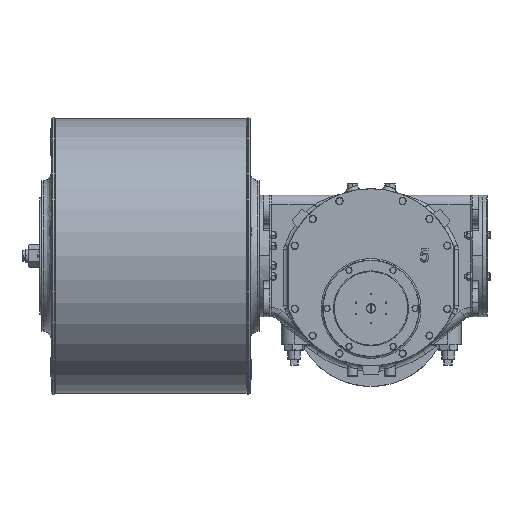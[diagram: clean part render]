
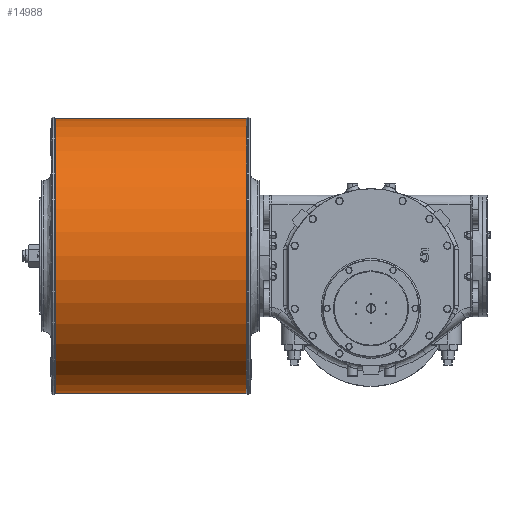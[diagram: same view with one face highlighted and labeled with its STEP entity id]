
A CAD part, top view. The second image highlights one B-rep face of the part: STEP entity #14988.
In plain terms, the highlighted cylindrical face has radius 366 mm (diameter 732 mm), a partial arc.
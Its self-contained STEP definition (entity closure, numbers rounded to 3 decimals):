
#763 = LINE ( 'NONE', #33173, #56200 ) ;
#2109 = AXIS2_PLACEMENT_3D ( 'NONE', #13277, #47449, #64366 ) ;
#3674 = EDGE_LOOP ( 'NONE', ( #34709, #19479, #18851, #9518 ) ) ;
#9384 = CARTESIAN_POINT ( 'NONE',  ( -332.5, 506., 113. ) ) ;
#9518 = ORIENTED_EDGE ( 'NONE', *, *, #29280, .F. ) ;
#11762 = VERTEX_POINT ( 'NONE', #21070 ) ;
#13277 = CARTESIAN_POINT ( 'NONE',  ( -842.5, 140., 113. ) ) ;
#13717 = EDGE_CURVE ( 'NONE', #20848, #32167, #59780, .T. ) ;
#13756 = DIRECTION ( 'NONE',  ( 1., 0., 0. ) ) ;
#13879 = CIRCLE ( 'NONE', #2109, 366. ) ;
#14988 = ADVANCED_FACE ( 'NONE', ( #35566 ), #63522, .T. ) ;
#18851 = ORIENTED_EDGE ( 'NONE', *, *, #13717, .T. ) ;
#19479 = ORIENTED_EDGE ( 'NONE', *, *, #20101, .T. ) ;
#20101 = EDGE_CURVE ( 'NONE', #11762, #20848, #46476, .T. ) ;
#20848 = VERTEX_POINT ( 'NONE', #36273 ) ;
#21070 = CARTESIAN_POINT ( 'NONE',  ( -842.5, -226., 113. ) ) ;
#29280 = EDGE_CURVE ( 'NONE', #42184, #32167, #763, .T. ) ;
#29819 = VECTOR ( 'NONE', #13756, 1000. ) ;
#30058 = DIRECTION ( 'NONE',  ( 1., 0., 0. ) ) ;
#32167 = VERTEX_POINT ( 'NONE', #9384 ) ;
#33173 = CARTESIAN_POINT ( 'NONE',  ( -842.5, 506., 113. ) ) ;
#34709 = ORIENTED_EDGE ( 'NONE', *, *, #54116, .T. ) ;
#35566 = FACE_OUTER_BOUND ( 'NONE', #3674, .T. ) ;
#36273 = CARTESIAN_POINT ( 'NONE',  ( -332.5, -226., 113. ) ) ;
#42184 = VERTEX_POINT ( 'NONE', #63209 ) ;
#45410 = CARTESIAN_POINT ( 'NONE',  ( -332.5, 140., 113. ) ) ;
#46476 = LINE ( 'NONE', #64125, #29819 ) ;
#47449 = DIRECTION ( 'NONE',  ( 1., 0., 0. ) ) ;
#52470 = DIRECTION ( 'NONE',  ( 0., 1., 0. ) ) ;
#54116 = EDGE_CURVE ( 'NONE', #42184, #11762, #13879, .T. ) ;
#55072 = AXIS2_PLACEMENT_3D ( 'NONE', #45410, #62337, #57157 ) ;
#56200 = VECTOR ( 'NONE', #61128, 1000. ) ;
#57157 = DIRECTION ( 'NONE',  ( 0., 1., 0. ) ) ;
#57991 = CARTESIAN_POINT ( 'NONE',  ( -842.5, 140., 113. ) ) ;
#59780 = CIRCLE ( 'NONE', #55072, 366. ) ;
#61128 = DIRECTION ( 'NONE',  ( 1., 0., 0. ) ) ;
#62337 = DIRECTION ( 'NONE',  ( -1., 0., 0. ) ) ;
#63209 = CARTESIAN_POINT ( 'NONE',  ( -842.5, 506., 113. ) ) ;
#63522 = CYLINDRICAL_SURFACE ( 'NONE', #69266, 366. ) ;
#64125 = CARTESIAN_POINT ( 'NONE',  ( -842.5, -226., 113. ) ) ;
#64366 = DIRECTION ( 'NONE',  ( 0., 1., 0. ) ) ;
#69266 = AXIS2_PLACEMENT_3D ( 'NONE', #57991, #30058, #52470 ) ;
